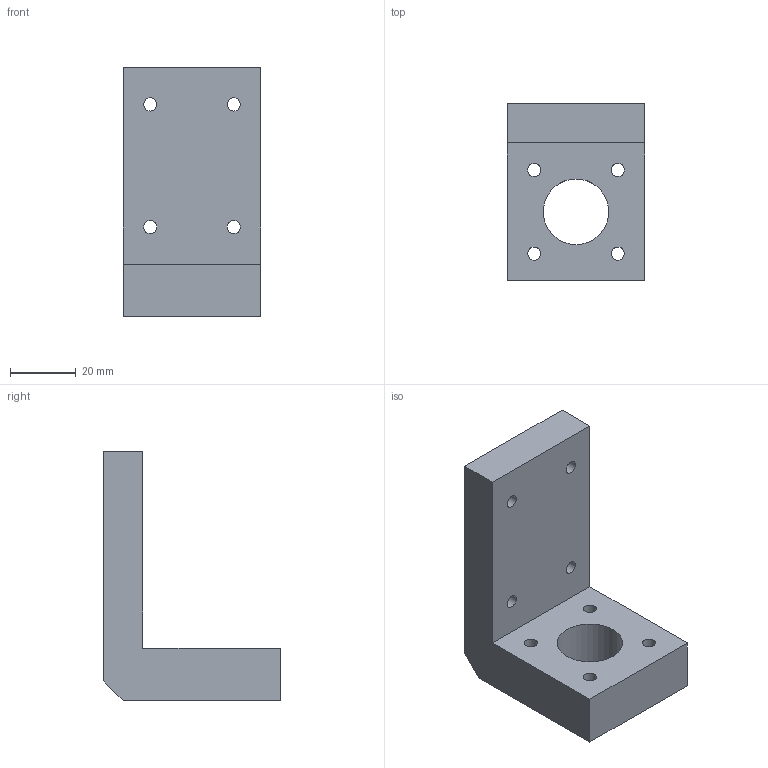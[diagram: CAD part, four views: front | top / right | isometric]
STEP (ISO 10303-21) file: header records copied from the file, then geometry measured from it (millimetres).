
FILE_DESCRIPTION(/* description */ ('STEP AP242 Edition 2','CAx-IF Rec.Pracs.---Representation and Presentation of Product Manufacturing Information (PMI)---4.0---2014-10-13','CAx-IF Rec.Pracs.---3D Tessellated Geometry---0.4---2014-09-14','2;1','CAx-IF Rec.Pracs.---User Defined Attributes---1.5---2016-08-15'),/* implementation_level */ '2;1');
FILE_NAME(/* name */ 'Spindle Bracket',/* time_stamp */ '2025-11-29T19:49:21Z',/* author */ (''),/* organization */ (''),/* preprocessor_version */ 'ST-DEVELOPER v20',/* originating_system */ 'ONSHAPE BY PTC INC, 1.207',/* authorisation */ ' ');
FILE_SCHEMA (('AP242_MANAGED_MODEL_BASED_3D_ENGINEERING_MIM_LF { 1 0 10303 442 3 1 4 }'));
Length unit declared in the file: metre
Products named in the file (1): Part 1
Bounding box: 42 x 54 x 76 mm (x, y, z)
Volume: 59338 mm3; surface area: 15487.7 mm2
Topology: 1 solids, 1 shells, 18 faces, 48 edges, 32 vertices
Faces by surface type: plane 9, cylinder 9
Full cylindrical faces by diameter (mm): 4 x8, 20 x1
Entity records: 583 total; most frequent: DIRECTION 95, CARTESIAN_POINT 90, ORIENTED_EDGE 78, EDGE_LOOP 45, FACE_BOUND 45, EDGE_CURVE 39, AXIS2_PLACEMENT_3D 37, VERTEX_POINT 32
